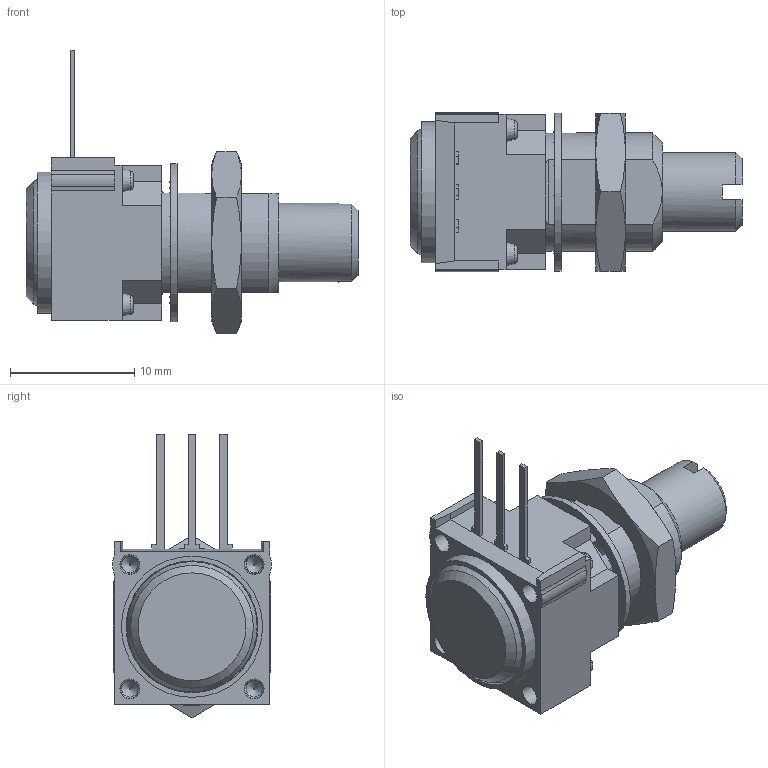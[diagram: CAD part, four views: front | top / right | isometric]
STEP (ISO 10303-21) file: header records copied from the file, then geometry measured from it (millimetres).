
FILE_DESCRIPTION(/* description */ ('Unknown'),/* implementation_level */ '2;1');
FILE_NAME(/* name */ 'P11S1F0GGSX10103KA',/* time_stamp */ '2023-03-16T10:24:04+01:00',/* author */ ('Unknown'),/* organization */ ('Unknown'),/* preprocessor_version */ 'ST-DEVELOPER v18.102',/* originating_system */ 'Solid Edge',/* authorisation */ 'Unknown');
FILE_SCHEMA (('AUTOMOTIVE_DESIGN {1 0 10303 214 3 1 1}'));
Length unit declared in the file: millimetre
Products named in the file (1): P11S1F0GGSX10103KA
Bounding box: 26.7 x 12.79 x 22.83 mm (x, y, z)
Volume: 1797.3 mm3; surface area: 2842.1 mm2
Topology: 2 solids, 7 shells, 537 faces, 1499 edges, 971 vertices
Faces by surface type: plane 323, cylinder 108, bspline 50, cone 46, torus 10
Full cylindrical faces by diameter (mm): 1.3 x4, 1.5 x6, 1.55 x4, 3.4 x1, 3.97 x1, 4 x1, 4.1 x1, 5.25 x1, 5.9 x1, 6.35 x2, 6.4 x1, 7.42 x1, 7.44 x1, 8.4 x1, 9.65 x1, 10.6 x1, 11.35 x1, 12.7 x1
Entity records: 20277 total; most frequent: CARTESIAN_POINT 4472, ORIENTED_EDGE 2786, DIRECTION 2500, EDGE_CURVE 1393, VERTEX_POINT 932, AXIS2_PLACEMENT_3D 850, LINE 800, VECTOR 800
